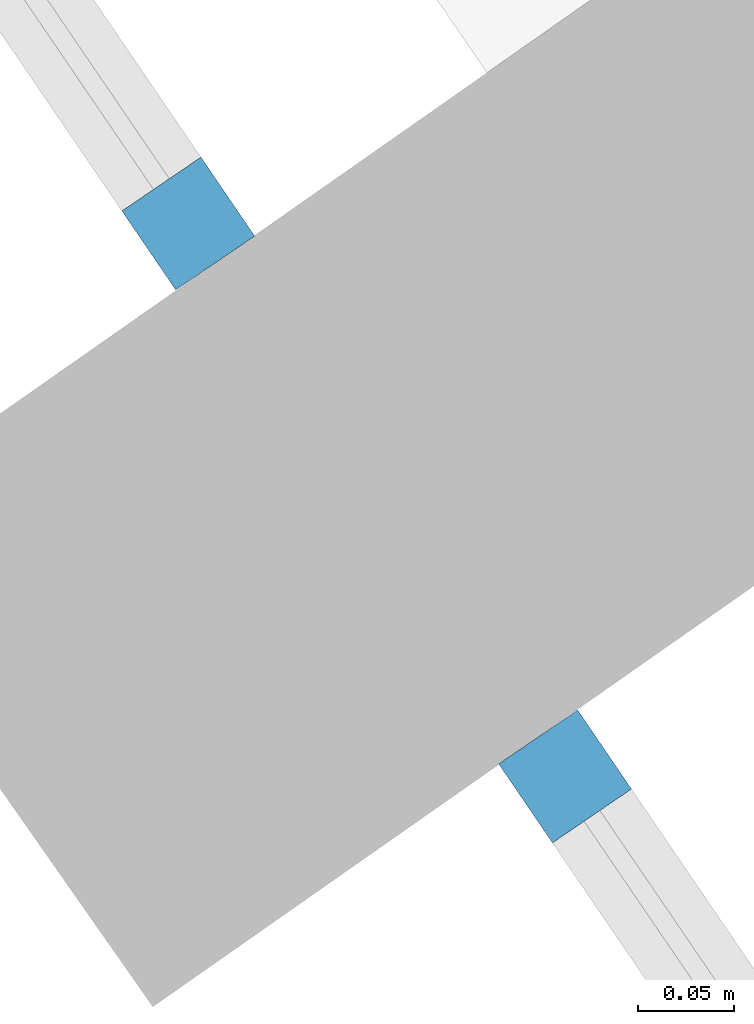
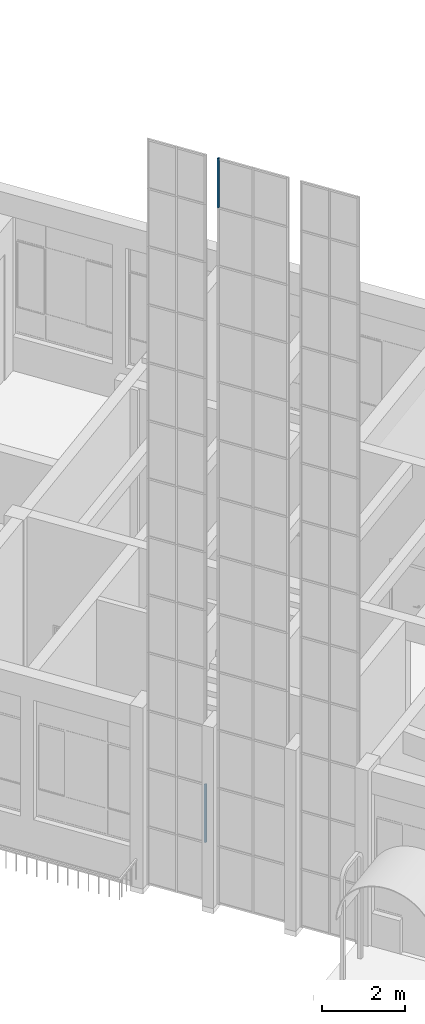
# One storey, part 14 of 157: 2 members, 2 elements without a shape of their own.
"""IFC2X3 building model written with IfcOpenShell, lengths in millimetres."""

from ifc_helpers import new_model, entity, si_unit, converted_unit, derived_unit, direction, frame, origin, origin_2d_with_axis, place, context, subcontext, project, spatial, rectangle, extrude, source, transform, mapped, material, type_object, type_shapes, element, aggregate, save


model = new_model("IFC2X3")

# Units and contexts
model_context = context("Model", 3, precision=0.01, world=origin(), true_north=direction((6.123031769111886e-17, 1.0)))
body_context = subcontext(model_context, "Body", "Model", "MODEL_VIEW")
ifc_project = project(units=[si_unit("LENGTHUNIT", "METRE", prefix="MILLI"), si_unit("AREAUNIT", "SQUARE_METRE"), si_unit("VOLUMEUNIT", "CUBIC_METRE"), converted_unit("PLANEANGLEUNIT", "DEGREE", entity("IfcRatioMeasure", 0.017453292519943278), si_unit("PLANEANGLEUNIT", "RADIAN"), dimensions=[0, 0, 0, 0, 0, 0, 0]), si_unit("MASSUNIT", "GRAM", prefix="KILO"), derived_unit("MASSDENSITYUNIT", [(si_unit("MASSUNIT", "GRAM", prefix="KILO"), 1), (si_unit("LENGTHUNIT", "METRE"), -3)]), derived_unit("MOMENTOFINERTIAUNIT", [(si_unit("LENGTHUNIT", "METRE"), 4)]), si_unit("TIMEUNIT", "SECOND"), si_unit("FREQUENCYUNIT", "HERTZ"), si_unit("THERMODYNAMICTEMPERATUREUNIT", "DEGREE_CELSIUS"), derived_unit("THERMALTRANSMITTANCEUNIT", [(si_unit("MASSUNIT", "GRAM", prefix="KILO"), 1), (si_unit("THERMODYNAMICTEMPERATUREUNIT", "KELVIN"), -1), (si_unit("TIMEUNIT", "SECOND"), -3)]), derived_unit("THERMALCONDUCTANCEUNIT", [(si_unit("MASSUNIT", "GRAM", prefix="KILO"), 1), (si_unit("LENGTHUNIT", "METRE"), 1), (si_unit("THERMODYNAMICTEMPERATUREUNIT", "KELVIN"), -1), (si_unit("TIMEUNIT", "SECOND"), -3)]), derived_unit("VOLUMETRICFLOWRATEUNIT", [(si_unit("LENGTHUNIT", "METRE"), 3), (si_unit("TIMEUNIT", "SECOND"), -1)]), derived_unit("MASSFLOWRATEUNIT", [(si_unit("MASSUNIT", "GRAM", prefix="KILO"), 1), (si_unit("TIMEUNIT", "SECOND"), -1)]), derived_unit("ROTATIONALFREQUENCYUNIT", [(si_unit("TIMEUNIT", "SECOND"), -1)]), si_unit("ELECTRICCURRENTUNIT", "AMPERE"), si_unit("ELECTRICVOLTAGEUNIT", "VOLT"), si_unit("POWERUNIT", "WATT"), converted_unit("FORCEUNIT", "KIP", entity("IfcRatioMeasure", 2.088543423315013e-05), si_unit("FORCEUNIT", "NEWTON"), dimensions=[1, 1, -2, 0, 0, 0, 0]), si_unit("ILLUMINANCEUNIT", "LUX"), si_unit("LUMINOUSFLUXUNIT", "LUMEN"), si_unit("LUMINOUSINTENSITYUNIT", "CANDELA"), derived_unit("USERDEFINED", [(si_unit("MASSUNIT", "GRAM", prefix="KILO"), -1), (si_unit("LENGTHUNIT", "METRE"), -2), (si_unit("TIMEUNIT", "SECOND"), 3), (si_unit("LUMINOUSFLUXUNIT", "LUMEN"), 1)]), derived_unit("USERDEFINED", [(si_unit("MASSUNIT", "GRAM", prefix="KILO"), 1), (si_unit("LENGTHUNIT", "METRE"), 3), (si_unit("TIMEUNIT", "SECOND"), -3), (si_unit("ELECTRICCURRENTUNIT", "AMPERE"), -2)]), derived_unit("USERDEFINED", [(si_unit("LENGTHUNIT", "METRE"), 2), (si_unit("TIMEUNIT", "SECOND"), -2)]), derived_unit("SOUNDPOWERUNIT", [(si_unit("MASSUNIT", "GRAM", prefix="KILO"), 1), (si_unit("LENGTHUNIT", "METRE"), 2), (si_unit("TIMEUNIT", "SECOND"), -3)]), derived_unit("SOUNDPRESSUREUNIT", [(si_unit("MASSUNIT", "GRAM", prefix="KILO"), 1), (si_unit("LENGTHUNIT", "METRE"), -1), (si_unit("TIMEUNIT", "SECOND"), -2)]), derived_unit("LINEARVELOCITYUNIT", [(si_unit("LENGTHUNIT", "METRE"), 1), (si_unit("TIMEUNIT", "SECOND"), -1)]), si_unit("PRESSUREUNIT", "PASCAL"), derived_unit("USERDEFINED", [(si_unit("LENGTHUNIT", "METRE"), -2), (si_unit("MASSUNIT", "GRAM", prefix="KILO"), 1), (si_unit("TIMEUNIT", "SECOND"), -2)]), derived_unit("LINEARFORCEUNIT", [(si_unit("MASSUNIT", "GRAM", prefix="KILO"), 1), (si_unit("LENGTHUNIT", "METRE"), 1), (si_unit("TIMEUNIT", "SECOND"), -2), (si_unit("LENGTHUNIT", "METRE"), -1)]), derived_unit("PLANARFORCEUNIT", [(si_unit("MASSUNIT", "GRAM", prefix="KILO"), 1), (si_unit("LENGTHUNIT", "METRE"), 1), (si_unit("TIMEUNIT", "SECOND"), -2), (si_unit("LENGTHUNIT", "METRE"), -2)]), derived_unit("SPECIFICHEATCAPACITYUNIT", [(si_unit("LENGTHUNIT", "METRE"), 2), (si_unit("TIMEUNIT", "SECOND"), -2), (si_unit("THERMODYNAMICTEMPERATUREUNIT", "KELVIN"), -1)]), derived_unit("VAPORPERMEABILITYUNIT", [(si_unit("TIMEUNIT", "SECOND"), 1), (si_unit("LENGTHUNIT", "METRE"), -1)]), derived_unit("DYNAMICVISCOSITYUNIT", [(si_unit("MASSUNIT", "GRAM", prefix="KILO"), 1), (si_unit("LENGTHUNIT", "METRE"), -1), (si_unit("TIMEUNIT", "SECOND"), -1)]), derived_unit("THERMALEXPANSIONCOEFFICIENTUNIT", [(si_unit("THERMODYNAMICTEMPERATUREUNIT", "KELVIN"), -1)])], contexts=[model_context])

# Site, building, storey
site_placement = place(None, frame((0.0, 0.0, 0.0), z_axis=(0.0, 0.0, 1.0), x_axis=(0.8191520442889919, 0.5735764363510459, 0.0)))
site = spatial("IfcSite", under=ifc_project, at=site_placement, Name="Default", CompositionType="ELEMENT")
building_placement = place(site_placement, origin())
building = spatial("IfcBuilding", under=site, at=building_placement, CompositionType="ELEMENT")
storey_placement = place(building_placement, origin())
storey = spatial("IfcBuildingStorey", under=building, at=storey_placement, Name="1.EG +0.00", CompositionType="ELEMENT", Elevation=-4.331468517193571e-12)

# Curtain wall, member
curtain_wall_type_1 = type_object("IfcCurtainWallType", Name="Curtain Wall:Curtain_Wall_CJC", PredefinedType="NOTDEFINED")
curtain_wall_1_placement = place(storey_placement, origin())
curtain_wall_1 = element("IfcCurtainWall", 1, at=curtain_wall_1_placement, inside=storey, type_object=curtain_wall_type_1, Name="Curtain Wall:Curtain_Wall_CJC", ObjectType="Curtain Wall:Curtain_Wall_CJC")
ifc_material = material(Name="Aluminium")
member_type_1 = type_object("IfcMemberType", Name="Rectangular Mullion:5x5", PredefinedType="MULLION", material=ifc_material)
shared_shape_1 = source(origin(), body_context, "Body", "SweptSolid", [
    extrude(rectangle(XDim=50.0, YDim=50.0, at=origin_2d_with_axis()), frame((-25.0, 0.0, -1700.0), z_axis=(0.0, 0.0, 1.0), x_axis=(0.0, -1.0, 0.0)), (0.0, 0.0, 1.0), 1700.0000000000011),
])
type_shapes(member_type_1, [shared_shape_1])
member_1_placement = place(curtain_wall_1_placement, frame((-223070.5851543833, 113945.23194626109, 3400.0), z_axis=(0.0, 0.0, 1.0), x_axis=(-0.01272958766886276, -0.999918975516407, 0.0)))
member_1 = element("IfcMember", 2, at=member_1_placement, type_object=member_type_1, material=ifc_material, Name="Rectangular Mullion:5x5", ObjectType="Rectangular Mullion:5x5", context=body_context, shape_type="MappedRepresentation", body=[
    mapped(shared_shape_1, transform((0.0, 0.0, 0.0), scale=1.0)),
])
aggregate(curtain_wall_1, [member_1])

curtain_wall_type_2 = type_object("IfcCurtainWallType", Name="Curtain Wall:Curtain_Wall_CJC 2", PredefinedType="NOTDEFINED")
curtain_wall_2_placement = place(storey_placement, origin())
curtain_wall_2 = element("IfcCurtainWall", 3, at=curtain_wall_2_placement, inside=storey, type_object=curtain_wall_type_2, Name="Curtain Wall:Curtain_Wall_CJC 2", ObjectType="Curtain Wall:Curtain_Wall_CJC 2")
member_type_2 = type_object("IfcMemberType", Name="Rectangular Mullion:5x5", PredefinedType="MULLION", material=ifc_material)
shared_shape_2 = source(origin(), body_context, "Body", "SweptSolid", [
    extrude(rectangle(XDim=50.0, YDim=50.0, at=origin_2d_with_axis()), frame((-25.0, 0.0, -1450.0), z_axis=(0.0, 0.0, 1.0), x_axis=(0.0, -1.0, 0.0)), (0.0, 0.0, 1.0), 1450.0000000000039),
])
type_shapes(member_type_2, [shared_shape_2])
member_2_placement = place(curtain_wall_2_placement, frame((-223074.40434013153, 113645.23194626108, 20400.0), z_axis=(0.0, 0.0, -1.0), x_axis=(0.01272958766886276, 0.999918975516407, 0.0)))
member_2 = element("IfcMember", 4, at=member_2_placement, type_object=member_type_2, material=ifc_material, Name="Rectangular Mullion:5x5", ObjectType="Rectangular Mullion:5x5", context=body_context, shape_type="MappedRepresentation", body=[
    mapped(shared_shape_2, transform((0.0, 0.0, 0.0), scale=1.0)),
])
aggregate(curtain_wall_2, [member_2])

save(model, "model.ifc")
